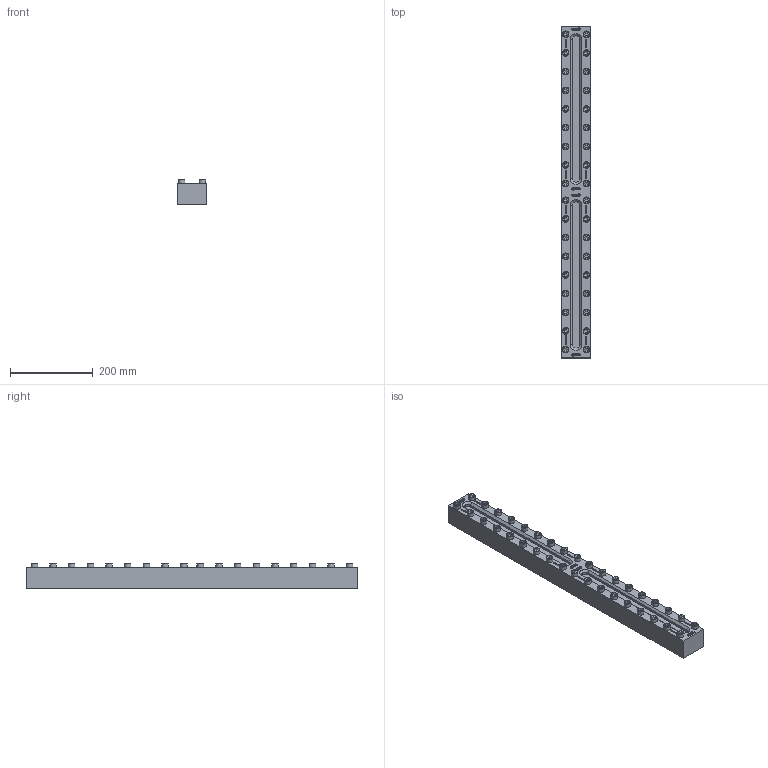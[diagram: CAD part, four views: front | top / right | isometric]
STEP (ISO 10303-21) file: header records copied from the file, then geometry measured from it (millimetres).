
FILE_DESCRIPTION(/* description */ (''),/* implementation_level */ '2;1');
FILE_NAME(/* name */ 'W:\Konstruktion_ACI\330\_Zeichnungen\STEP\ACI-330-800-16.stp',/* time_stamp */ '2022-03-01T17:26:13+01:00',/* author */ ('koslowksi'),/* organization */ (''),/* preprocessor_version */ 'ST-DEVELOPER v16.1',/* originating_system */ 'Autodesk Inventor 2016',/* authorisation */ '');
FILE_SCHEMA (('AUTOMOTIVE_DESIGN { 1 0 10303 214 3 1 1 }'));
Products named in the file (1): ACI-330-800-16.stp
Bounding box: 70 x 800 x 60.9 mm (x, y, z)
Volume: 2568989.6 mm3; surface area: 257243.2 mm2
Topology: 1 solids, 1 shells, 2606 faces, 7048 edges, 4684 vertices
Faces by surface type: plane 1850, bspline 636, cylinder 44, cone 40, torus 36
Full cylindrical faces by diameter (mm): 16 x36
Entity records: 85220 total; most frequent: CARTESIAN_POINT 22787, ORIENTED_EDGE 13736, DIRECTION 9450, EDGE_CURVE 6868, LINE 5252, VECTOR 5252, VERTEX_POINT 4612, EDGE_LOOP 2954
